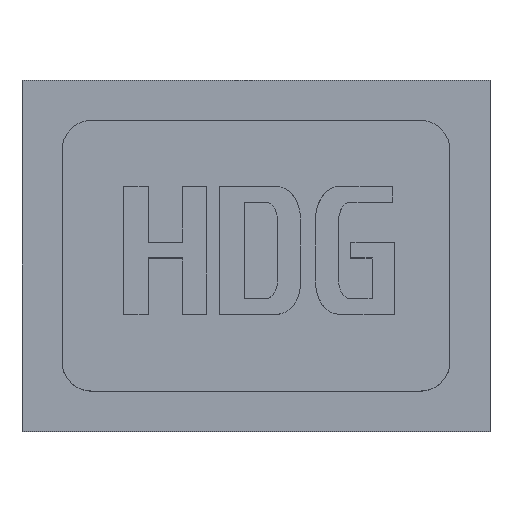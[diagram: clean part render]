
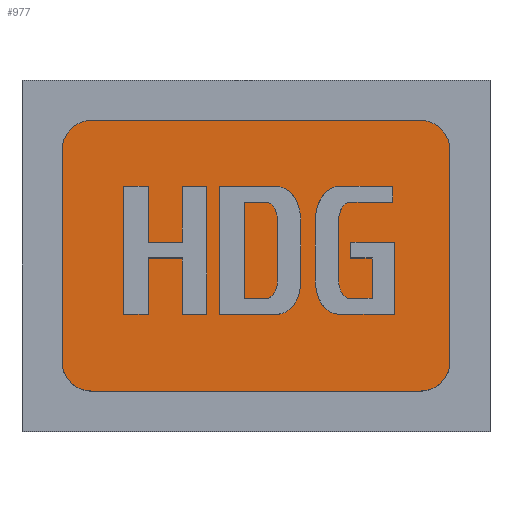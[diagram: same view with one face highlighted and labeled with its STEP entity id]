
A CAD part, top view. The second image highlights one B-rep face of the part: STEP entity #977.
In plain terms, the highlighted planar face has unit normal (0, 0, 1).
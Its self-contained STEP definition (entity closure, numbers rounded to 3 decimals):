
#44 = PLANE('',#45);
#45 = AXIS2_PLACEMENT_3D('',#46,#47,#48);
#46 = CARTESIAN_POINT('',(1.375,1.375,1.));
#47 = DIRECTION('',(0.,1.,0.));
#48 = DIRECTION('',(1.,0.,0.));
#77 = CYLINDRICAL_SURFACE('',#78,1.);
#78 = AXIS2_PLACEMENT_3D('',#79,#80,#81);
#79 = CARTESIAN_POINT('',(2.375,2.375,1.));
#80 = DIRECTION('',(0.,0.,1.));
#81 = DIRECTION('',(0.,-1.,0.));
#105 = PLANE('',#106);
#106 = AXIS2_PLACEMENT_3D('',#107,#108,#109);
#107 = CARTESIAN_POINT('',(1.375,10.625,1.));
#108 = DIRECTION('',(1.,0.,0.));
#109 = DIRECTION('',(0.,-1.,0.));
#134 = CYLINDRICAL_SURFACE('',#135,1.);
#135 = AXIS2_PLACEMENT_3D('',#136,#137,#138);
#136 = CARTESIAN_POINT('',(2.375,9.625,1.));
#137 = DIRECTION('',(0.,0.,1.));
#138 = DIRECTION('',(0.,1.,0.));
#162 = PLANE('',#163);
#163 = AXIS2_PLACEMENT_3D('',#164,#165,#166);
#164 = CARTESIAN_POINT('',(14.625,10.625,1.));
#165 = DIRECTION('',(0.,-1.,0.));
#166 = DIRECTION('',(-1.,0.,0.));
#191 = CYLINDRICAL_SURFACE('',#192,1.);
#192 = AXIS2_PLACEMENT_3D('',#193,#194,#195);
#193 = CARTESIAN_POINT('',(13.625,9.625,1.));
#194 = DIRECTION('',(0.,0.,1.));
#195 = DIRECTION('',(1.,0.,0.));
#219 = PLANE('',#220);
#220 = AXIS2_PLACEMENT_3D('',#221,#222,#223);
#221 = CARTESIAN_POINT('',(14.625,1.375,1.));
#222 = DIRECTION('',(-1.,0.,0.));
#223 = DIRECTION('',(0.,1.,0.));
#246 = CYLINDRICAL_SURFACE('',#247,1.);
#247 = AXIS2_PLACEMENT_3D('',#248,#249,#250);
#248 = CARTESIAN_POINT('',(13.625,2.375,1.));
#249 = DIRECTION('',(0.,0.,1.));
#250 = DIRECTION('',(0.,-1.,0.));
#377 = VERTEX_POINT('',#378);
#378 = CARTESIAN_POINT('',(2.375,1.375,4.5));
#399 = EDGE_CURVE('',#377,#400,#402,.T.);
#400 = VERTEX_POINT('',#401);
#401 = CARTESIAN_POINT('',(13.625,1.375,4.5));
#402 = SURFACE_CURVE('',#403,(#407,#414),.PCURVE_S1.);
#403 = LINE('',#404,#405);
#404 = CARTESIAN_POINT('',(1.375,1.375,4.5));
#405 = VECTOR('',#406,1.);
#406 = DIRECTION('',(1.,0.,0.));
#407 = PCURVE('',#44,#408);
#408 = DEFINITIONAL_REPRESENTATION('',(#409),#413);
#409 = LINE('',#410,#411);
#410 = CARTESIAN_POINT('',(0.,-3.5));
#411 = VECTOR('',#412,1.);
#412 = DIRECTION('',(1.,0.));
#413 = ( GEOMETRIC_REPRESENTATION_CONTEXT(2) 
PARAMETRIC_REPRESENTATION_CONTEXT() REPRESENTATION_CONTEXT('2D SPACE',''
  ) );
#414 = PCURVE('',#415,#420);
#415 = PLANE('',#416);
#416 = AXIS2_PLACEMENT_3D('',#417,#418,#419);
#417 = CARTESIAN_POINT('',(8.,6.,4.5));
#418 = DIRECTION('',(0.,0.,1.));
#419 = DIRECTION('',(1.,0.,0.));
#420 = DEFINITIONAL_REPRESENTATION('',(#421),#425);
#421 = LINE('',#422,#423);
#422 = CARTESIAN_POINT('',(-6.625,-4.625));
#423 = VECTOR('',#424,1.);
#424 = DIRECTION('',(1.,0.));
#425 = ( GEOMETRIC_REPRESENTATION_CONTEXT(2) 
PARAMETRIC_REPRESENTATION_CONTEXT() REPRESENTATION_CONTEXT('2D SPACE',''
  ) );
#453 = VERTEX_POINT('',#454);
#454 = CARTESIAN_POINT('',(1.375,2.375,4.5));
#475 = EDGE_CURVE('',#377,#453,#476,.T.);
#476 = SURFACE_CURVE('',#477,(#482,#489),.PCURVE_S1.);
#477 = CIRCLE('',#478,1.);
#478 = AXIS2_PLACEMENT_3D('',#479,#480,#481);
#479 = CARTESIAN_POINT('',(2.375,2.375,4.5));
#480 = DIRECTION('',(-0.,-0.,-1.));
#481 = DIRECTION('',(0.,-1.,0.));
#482 = PCURVE('',#77,#483);
#483 = DEFINITIONAL_REPRESENTATION('',(#484),#488);
#484 = LINE('',#485,#486);
#485 = CARTESIAN_POINT('',(-0.,3.5));
#486 = VECTOR('',#487,1.);
#487 = DIRECTION('',(-1.,0.));
#488 = ( GEOMETRIC_REPRESENTATION_CONTEXT(2) 
PARAMETRIC_REPRESENTATION_CONTEXT() REPRESENTATION_CONTEXT('2D SPACE',''
  ) );
#489 = PCURVE('',#415,#490);
#490 = DEFINITIONAL_REPRESENTATION('',(#491),#499);
#491 = ( BOUNDED_CURVE() B_SPLINE_CURVE(2,(#492,#493,#494,#495,#496,#497
,#498),.UNSPECIFIED.,.T.,.F.) B_SPLINE_CURVE_WITH_KNOTS((1,2,2,2,2,1),(
    -2.094,0.,2.094,4.189,6.283,
8.378),.UNSPECIFIED.) CURVE() GEOMETRIC_REPRESENTATION_ITEM() 
RATIONAL_B_SPLINE_CURVE((1.,0.5,1.,0.5,1.,0.5,1.)) REPRESENTATION_ITEM(
  '') );
#492 = CARTESIAN_POINT('',(-5.625,-4.625));
#493 = CARTESIAN_POINT('',(-7.357,-4.625));
#494 = CARTESIAN_POINT('',(-6.491,-3.125));
#495 = CARTESIAN_POINT('',(-5.625,-1.625));
#496 = CARTESIAN_POINT('',(-4.759,-3.125));
#497 = CARTESIAN_POINT('',(-3.893,-4.625));
#498 = CARTESIAN_POINT('',(-5.625,-4.625));
#499 = ( GEOMETRIC_REPRESENTATION_CONTEXT(2) 
PARAMETRIC_REPRESENTATION_CONTEXT() REPRESENTATION_CONTEXT('2D SPACE',''
  ) );
#507 = VERTEX_POINT('',#508);
#508 = CARTESIAN_POINT('',(14.625,2.375,4.5));
#529 = EDGE_CURVE('',#400,#507,#530,.T.);
#530 = SURFACE_CURVE('',#531,(#536,#543),.PCURVE_S1.);
#531 = CIRCLE('',#532,1.);
#532 = AXIS2_PLACEMENT_3D('',#533,#534,#535);
#533 = CARTESIAN_POINT('',(13.625,2.375,4.5));
#534 = DIRECTION('',(-0.,0.,1.));
#535 = DIRECTION('',(0.,-1.,0.));
#536 = PCURVE('',#246,#537);
#537 = DEFINITIONAL_REPRESENTATION('',(#538),#542);
#538 = LINE('',#539,#540);
#539 = CARTESIAN_POINT('',(0.,3.5));
#540 = VECTOR('',#541,1.);
#541 = DIRECTION('',(1.,0.));
#542 = ( GEOMETRIC_REPRESENTATION_CONTEXT(2) 
PARAMETRIC_REPRESENTATION_CONTEXT() REPRESENTATION_CONTEXT('2D SPACE',''
  ) );
#543 = PCURVE('',#415,#544);
#544 = DEFINITIONAL_REPRESENTATION('',(#545),#549);
#545 = CIRCLE('',#546,1.);
#546 = AXIS2_PLACEMENT_2D('',#547,#548);
#547 = CARTESIAN_POINT('',(5.625,-3.625));
#548 = DIRECTION('',(0.,-1.));
#549 = ( GEOMETRIC_REPRESENTATION_CONTEXT(2) 
PARAMETRIC_REPRESENTATION_CONTEXT() REPRESENTATION_CONTEXT('2D SPACE',''
  ) );
#557 = VERTEX_POINT('',#558);
#558 = CARTESIAN_POINT('',(1.375,9.625,4.5));
#579 = EDGE_CURVE('',#557,#453,#580,.T.);
#580 = SURFACE_CURVE('',#581,(#585,#592),.PCURVE_S1.);
#581 = LINE('',#582,#583);
#582 = CARTESIAN_POINT('',(1.375,10.625,4.5));
#583 = VECTOR('',#584,1.);
#584 = DIRECTION('',(0.,-1.,0.));
#585 = PCURVE('',#105,#586);
#586 = DEFINITIONAL_REPRESENTATION('',(#587),#591);
#587 = LINE('',#588,#589);
#588 = CARTESIAN_POINT('',(0.,-3.5));
#589 = VECTOR('',#590,1.);
#590 = DIRECTION('',(1.,0.));
#591 = ( GEOMETRIC_REPRESENTATION_CONTEXT(2) 
PARAMETRIC_REPRESENTATION_CONTEXT() REPRESENTATION_CONTEXT('2D SPACE',''
  ) );
#592 = PCURVE('',#415,#593);
#593 = DEFINITIONAL_REPRESENTATION('',(#594),#598);
#594 = LINE('',#595,#596);
#595 = CARTESIAN_POINT('',(-6.625,4.625));
#596 = VECTOR('',#597,1.);
#597 = DIRECTION('',(0.,-1.));
#598 = ( GEOMETRIC_REPRESENTATION_CONTEXT(2) 
PARAMETRIC_REPRESENTATION_CONTEXT() REPRESENTATION_CONTEXT('2D SPACE',''
  ) );
#606 = EDGE_CURVE('',#507,#607,#609,.T.);
#607 = VERTEX_POINT('',#608);
#608 = CARTESIAN_POINT('',(14.625,9.625,4.5));
#609 = SURFACE_CURVE('',#610,(#614,#621),.PCURVE_S1.);
#610 = LINE('',#611,#612);
#611 = CARTESIAN_POINT('',(14.625,1.375,4.5));
#612 = VECTOR('',#613,1.);
#613 = DIRECTION('',(0.,1.,0.));
#614 = PCURVE('',#219,#615);
#615 = DEFINITIONAL_REPRESENTATION('',(#616),#620);
#616 = LINE('',#617,#618);
#617 = CARTESIAN_POINT('',(0.,-3.5));
#618 = VECTOR('',#619,1.);
#619 = DIRECTION('',(1.,0.));
#620 = ( GEOMETRIC_REPRESENTATION_CONTEXT(2) 
PARAMETRIC_REPRESENTATION_CONTEXT() REPRESENTATION_CONTEXT('2D SPACE',''
  ) );
#621 = PCURVE('',#415,#622);
#622 = DEFINITIONAL_REPRESENTATION('',(#623),#627);
#623 = LINE('',#624,#625);
#624 = CARTESIAN_POINT('',(6.625,-4.625));
#625 = VECTOR('',#626,1.);
#626 = DIRECTION('',(0.,1.));
#627 = ( GEOMETRIC_REPRESENTATION_CONTEXT(2) 
PARAMETRIC_REPRESENTATION_CONTEXT() REPRESENTATION_CONTEXT('2D SPACE',''
  ) );
#655 = EDGE_CURVE('',#656,#557,#658,.T.);
#656 = VERTEX_POINT('',#657);
#657 = CARTESIAN_POINT('',(2.375,10.625,4.5));
#658 = SURFACE_CURVE('',#659,(#664,#671),.PCURVE_S1.);
#659 = CIRCLE('',#660,1.);
#660 = AXIS2_PLACEMENT_3D('',#661,#662,#663);
#661 = CARTESIAN_POINT('',(2.375,9.625,4.5));
#662 = DIRECTION('',(-0.,0.,1.));
#663 = DIRECTION('',(0.,-1.,0.));
#664 = PCURVE('',#134,#665);
#665 = DEFINITIONAL_REPRESENTATION('',(#666),#670);
#666 = LINE('',#667,#668);
#667 = CARTESIAN_POINT('',(-3.142,3.5));
#668 = VECTOR('',#669,1.);
#669 = DIRECTION('',(1.,0.));
#670 = ( GEOMETRIC_REPRESENTATION_CONTEXT(2) 
PARAMETRIC_REPRESENTATION_CONTEXT() REPRESENTATION_CONTEXT('2D SPACE',''
  ) );
#671 = PCURVE('',#415,#672);
#672 = DEFINITIONAL_REPRESENTATION('',(#673),#677);
#673 = CIRCLE('',#674,1.);
#674 = AXIS2_PLACEMENT_2D('',#675,#676);
#675 = CARTESIAN_POINT('',(-5.625,3.625));
#676 = DIRECTION('',(0.,-1.));
#677 = ( GEOMETRIC_REPRESENTATION_CONTEXT(2) 
PARAMETRIC_REPRESENTATION_CONTEXT() REPRESENTATION_CONTEXT('2D SPACE',''
  ) );
#705 = VERTEX_POINT('',#706);
#706 = CARTESIAN_POINT('',(13.625,10.625,4.5));
#727 = EDGE_CURVE('',#607,#705,#728,.T.);
#728 = SURFACE_CURVE('',#729,(#734,#741),.PCURVE_S1.);
#729 = CIRCLE('',#730,1.);
#730 = AXIS2_PLACEMENT_3D('',#731,#732,#733);
#731 = CARTESIAN_POINT('',(13.625,9.625,4.5));
#732 = DIRECTION('',(-0.,0.,1.));
#733 = DIRECTION('',(0.,-1.,0.));
#734 = PCURVE('',#191,#735);
#735 = DEFINITIONAL_REPRESENTATION('',(#736),#740);
#736 = LINE('',#737,#738);
#737 = CARTESIAN_POINT('',(-1.571,3.5));
#738 = VECTOR('',#739,1.);
#739 = DIRECTION('',(1.,0.));
#740 = ( GEOMETRIC_REPRESENTATION_CONTEXT(2) 
PARAMETRIC_REPRESENTATION_CONTEXT() REPRESENTATION_CONTEXT('2D SPACE',''
  ) );
#741 = PCURVE('',#415,#742);
#742 = DEFINITIONAL_REPRESENTATION('',(#743),#747);
#743 = CIRCLE('',#744,1.);
#744 = AXIS2_PLACEMENT_2D('',#745,#746);
#745 = CARTESIAN_POINT('',(5.625,3.625));
#746 = DIRECTION('',(0.,-1.));
#747 = ( GEOMETRIC_REPRESENTATION_CONTEXT(2) 
PARAMETRIC_REPRESENTATION_CONTEXT() REPRESENTATION_CONTEXT('2D SPACE',''
  ) );
#755 = EDGE_CURVE('',#705,#656,#756,.T.);
#756 = SURFACE_CURVE('',#757,(#761,#768),.PCURVE_S1.);
#757 = LINE('',#758,#759);
#758 = CARTESIAN_POINT('',(14.625,10.625,4.5));
#759 = VECTOR('',#760,1.);
#760 = DIRECTION('',(-1.,0.,0.));
#761 = PCURVE('',#162,#762);
#762 = DEFINITIONAL_REPRESENTATION('',(#763),#767);
#763 = LINE('',#764,#765);
#764 = CARTESIAN_POINT('',(0.,-3.5));
#765 = VECTOR('',#766,1.);
#766 = DIRECTION('',(1.,0.));
#767 = ( GEOMETRIC_REPRESENTATION_CONTEXT(2) 
PARAMETRIC_REPRESENTATION_CONTEXT() REPRESENTATION_CONTEXT('2D SPACE',''
  ) );
#768 = PCURVE('',#415,#769);
#769 = DEFINITIONAL_REPRESENTATION('',(#770),#774);
#770 = LINE('',#771,#772);
#771 = CARTESIAN_POINT('',(6.625,4.625));
#772 = VECTOR('',#773,1.);
#773 = DIRECTION('',(-1.,0.));
#774 = ( GEOMETRIC_REPRESENTATION_CONTEXT(2) 
PARAMETRIC_REPRESENTATION_CONTEXT() REPRESENTATION_CONTEXT('2D SPACE',''
  ) );
#977 = ADVANCED_FACE('',(#978),#415,.T.);
#978 = FACE_BOUND('',#979,.T.);
#979 = EDGE_LOOP('',(#980,#981,#982,#983,#984,#985,#986,#987));
#980 = ORIENTED_EDGE('',*,*,#399,.T.);
#981 = ORIENTED_EDGE('',*,*,#529,.T.);
#982 = ORIENTED_EDGE('',*,*,#606,.T.);
#983 = ORIENTED_EDGE('',*,*,#727,.T.);
#984 = ORIENTED_EDGE('',*,*,#755,.T.);
#985 = ORIENTED_EDGE('',*,*,#655,.T.);
#986 = ORIENTED_EDGE('',*,*,#579,.T.);
#987 = ORIENTED_EDGE('',*,*,#475,.F.);
